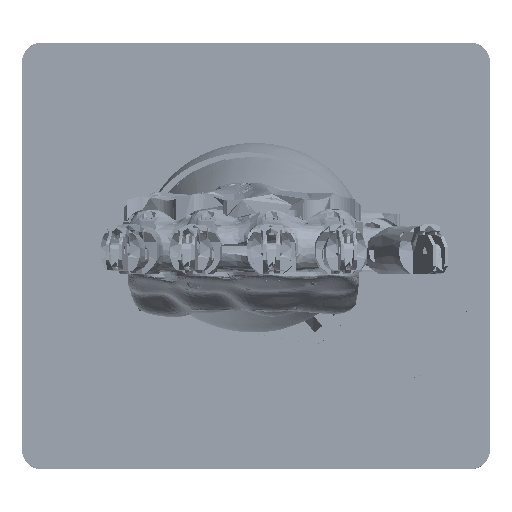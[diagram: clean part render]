
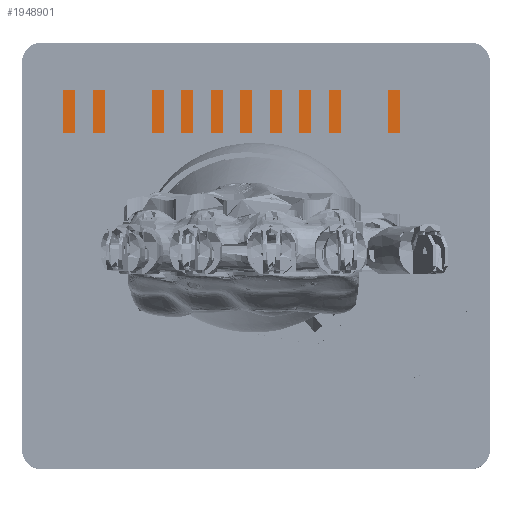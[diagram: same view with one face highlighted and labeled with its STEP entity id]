
A CAD part, top view. The second image highlights one B-rep face of the part: STEP entity #1948901.
In plain terms, the highlighted planar face has unit normal (0, 0, 1).
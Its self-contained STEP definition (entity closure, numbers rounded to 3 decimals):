
#1948587 = VERTEX_POINT('',#1948588);
#1948588 = CARTESIAN_POINT('',(6.,86.,38.));
#1948595 = PLANE('',#1948596);
#1948596 = AXIS2_PLACEMENT_3D('',#1948597,#1948598,#1948599);
#1948597 = CARTESIAN_POINT('',(6.,86.,8.));
#1948598 = DIRECTION('',(1.,0.,0.));
#1948599 = DIRECTION('',(0.,0.,1.));
#1948607 = PLANE('',#1948608);
#1948608 = AXIS2_PLACEMENT_3D('',#1948609,#1948610,#1948611);
#1948609 = CARTESIAN_POINT('',(6.,86.,8.));
#1948610 = DIRECTION('',(0.,1.,0.));
#1948611 = DIRECTION('',(0.,0.,1.));
#1948648 = VERTEX_POINT('',#1948649);
#1948649 = CARTESIAN_POINT('',(6.,201.,38.));
#1948663 = PLANE('',#1948664);
#1948664 = AXIS2_PLACEMENT_3D('',#1948665,#1948666,#1948667);
#1948665 = CARTESIAN_POINT('',(6.,201.,8.));
#1948666 = DIRECTION('',(0.,1.,0.));
#1948667 = DIRECTION('',(0.,0.,1.));
#1948675 = EDGE_CURVE('',#1948587,#1948648,#1948676,.T.);
#1948676 = SURFACE_CURVE('',#1948677,(#1948681,#1948688),.PCURVE_S1.);
#1948677 = LINE('',#1948678,#1948679);
#1948678 = CARTESIAN_POINT('',(6.,86.,38.));
#1948679 = VECTOR('',#1948680,1.);
#1948680 = DIRECTION('',(0.,1.,0.));
#1948681 = PCURVE('',#1948595,#1948682);
#1948682 = DEFINITIONAL_REPRESENTATION('',(#1948683),#1948687);
#1948683 = LINE('',#1948684,#1948685);
#1948684 = CARTESIAN_POINT('',(30.,0.));
#1948685 = VECTOR('',#1948686,1.);
#1948686 = DIRECTION('',(0.,-1.));
#1948687 = ( GEOMETRIC_REPRESENTATION_CONTEXT(2) 
PARAMETRIC_REPRESENTATION_CONTEXT() REPRESENTATION_CONTEXT('2D SPACE',''
  ) );
#1948688 = PCURVE('',#1948689,#1948694);
#1948689 = PLANE('',#1948690);
#1948690 = AXIS2_PLACEMENT_3D('',#1948691,#1948692,#1948693);
#1948691 = CARTESIAN_POINT('',(6.,86.,38.));
#1948692 = DIRECTION('',(0.,0.,1.));
#1948693 = DIRECTION('',(1.,0.,0.));
#1948694 = DEFINITIONAL_REPRESENTATION('',(#1948695),#1948699);
#1948695 = LINE('',#1948696,#1948697);
#1948696 = CARTESIAN_POINT('',(0.,0.));
#1948697 = VECTOR('',#1948698,1.);
#1948698 = DIRECTION('',(0.,1.));
#1948699 = ( GEOMETRIC_REPRESENTATION_CONTEXT(2) 
PARAMETRIC_REPRESENTATION_CONTEXT() REPRESENTATION_CONTEXT('2D SPACE',''
  ) );
#1948707 = VERTEX_POINT('',#1948708);
#1948708 = CARTESIAN_POINT('',(221.,86.,38.));
#1948715 = PLANE('',#1948716);
#1948716 = AXIS2_PLACEMENT_3D('',#1948717,#1948718,#1948719);
#1948717 = CARTESIAN_POINT('',(221.,86.,8.));
#1948718 = DIRECTION('',(1.,0.,0.));
#1948719 = DIRECTION('',(0.,0.,1.));
#1948758 = VERTEX_POINT('',#1948759);
#1948759 = CARTESIAN_POINT('',(221.,201.,38.));
#1948780 = EDGE_CURVE('',#1948707,#1948758,#1948781,.T.);
#1948781 = SURFACE_CURVE('',#1948782,(#1948786,#1948793),.PCURVE_S1.);
#1948782 = LINE('',#1948783,#1948784);
#1948783 = CARTESIAN_POINT('',(221.,86.,38.));
#1948784 = VECTOR('',#1948785,1.);
#1948785 = DIRECTION('',(0.,1.,0.));
#1948786 = PCURVE('',#1948715,#1948787);
#1948787 = DEFINITIONAL_REPRESENTATION('',(#1948788),#1948792);
#1948788 = LINE('',#1948789,#1948790);
#1948789 = CARTESIAN_POINT('',(30.,0.));
#1948790 = VECTOR('',#1948791,1.);
#1948791 = DIRECTION('',(0.,-1.));
#1948792 = ( GEOMETRIC_REPRESENTATION_CONTEXT(2) 
PARAMETRIC_REPRESENTATION_CONTEXT() REPRESENTATION_CONTEXT('2D SPACE',''
  ) );
#1948793 = PCURVE('',#1948689,#1948794);
#1948794 = DEFINITIONAL_REPRESENTATION('',(#1948795),#1948799);
#1948795 = LINE('',#1948796,#1948797);
#1948796 = CARTESIAN_POINT('',(215.,0.));
#1948797 = VECTOR('',#1948798,1.);
#1948798 = DIRECTION('',(0.,1.));
#1948799 = ( GEOMETRIC_REPRESENTATION_CONTEXT(2) 
PARAMETRIC_REPRESENTATION_CONTEXT() REPRESENTATION_CONTEXT('2D SPACE',''
  ) );
#1948826 = EDGE_CURVE('',#1948587,#1948707,#1948827,.T.);
#1948827 = SURFACE_CURVE('',#1948828,(#1948832,#1948839),.PCURVE_S1.);
#1948828 = LINE('',#1948829,#1948830);
#1948829 = CARTESIAN_POINT('',(6.,86.,38.));
#1948830 = VECTOR('',#1948831,1.);
#1948831 = DIRECTION('',(1.,0.,0.));
#1948832 = PCURVE('',#1948607,#1948833);
#1948833 = DEFINITIONAL_REPRESENTATION('',(#1948834),#1948838);
#1948834 = LINE('',#1948835,#1948836);
#1948835 = CARTESIAN_POINT('',(30.,0.));
#1948836 = VECTOR('',#1948837,1.);
#1948837 = DIRECTION('',(0.,1.));
#1948838 = ( GEOMETRIC_REPRESENTATION_CONTEXT(2) 
PARAMETRIC_REPRESENTATION_CONTEXT() REPRESENTATION_CONTEXT('2D SPACE',''
  ) );
#1948839 = PCURVE('',#1948689,#1948840);
#1948840 = DEFINITIONAL_REPRESENTATION('',(#1948841),#1948845);
#1948841 = LINE('',#1948842,#1948843);
#1948842 = CARTESIAN_POINT('',(0.,0.));
#1948843 = VECTOR('',#1948844,1.);
#1948844 = DIRECTION('',(1.,0.));
#1948845 = ( GEOMETRIC_REPRESENTATION_CONTEXT(2) 
PARAMETRIC_REPRESENTATION_CONTEXT() REPRESENTATION_CONTEXT('2D SPACE',''
  ) );
#1948873 = EDGE_CURVE('',#1948648,#1948758,#1948874,.T.);
#1948874 = SURFACE_CURVE('',#1948875,(#1948879,#1948886),.PCURVE_S1.);
#1948875 = LINE('',#1948876,#1948877);
#1948876 = CARTESIAN_POINT('',(6.,201.,38.));
#1948877 = VECTOR('',#1948878,1.);
#1948878 = DIRECTION('',(1.,0.,0.));
#1948879 = PCURVE('',#1948663,#1948880);
#1948880 = DEFINITIONAL_REPRESENTATION('',(#1948881),#1948885);
#1948881 = LINE('',#1948882,#1948883);
#1948882 = CARTESIAN_POINT('',(30.,0.));
#1948883 = VECTOR('',#1948884,1.);
#1948884 = DIRECTION('',(0.,1.));
#1948885 = ( GEOMETRIC_REPRESENTATION_CONTEXT(2) 
PARAMETRIC_REPRESENTATION_CONTEXT() REPRESENTATION_CONTEXT('2D SPACE',''
  ) );
#1948886 = PCURVE('',#1948689,#1948887);
#1948887 = DEFINITIONAL_REPRESENTATION('',(#1948888),#1948892);
#1948888 = LINE('',#1948889,#1948890);
#1948889 = CARTESIAN_POINT('',(0.,115.));
#1948890 = VECTOR('',#1948891,1.);
#1948891 = DIRECTION('',(1.,0.));
#1948892 = ( GEOMETRIC_REPRESENTATION_CONTEXT(2) 
PARAMETRIC_REPRESENTATION_CONTEXT() REPRESENTATION_CONTEXT('2D SPACE',''
  ) );
#1948901 = ADVANCED_FACE('',(#1948902),#1948689,.T.);
#1948902 = FACE_BOUND('',#1948903,.T.);
#1948903 = EDGE_LOOP('',(#1948904,#1948905,#1948906,#1948907));
#1948904 = ORIENTED_EDGE('',*,*,#1948675,.F.);
#1948905 = ORIENTED_EDGE('',*,*,#1948826,.T.);
#1948906 = ORIENTED_EDGE('',*,*,#1948780,.T.);
#1948907 = ORIENTED_EDGE('',*,*,#1948873,.F.);
